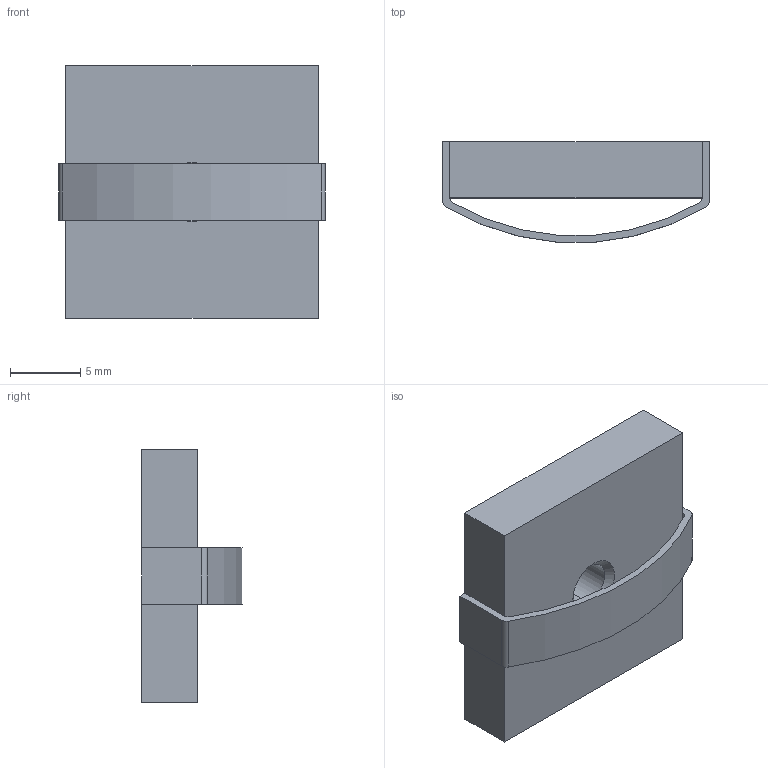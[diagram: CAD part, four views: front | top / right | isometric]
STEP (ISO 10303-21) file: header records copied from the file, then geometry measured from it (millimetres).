
FILE_DESCRIPTION (( 'STEP AP214' ), '1' );
FILE_NAME ('SNSD.30.51.33. Ñóõàðü ïàçîâûé ñ ïðóæèííîé ïëàñòèíîé M4, ïàç 10(B81).STEP', '2014-12-01T08:40:23', ( 'XTreme.ws' ), ( 'XTreme.ws' ), 'SwSTEP 2.0', 'SolidWorks 2014', '' );
FILE_SCHEMA (( 'AUTOMOTIVE_DESIGN' ));
Length unit declared in the file: millimetre
Products named in the file (3): SNSD.30.51.19. Ñóõàðü ïàçîâûé ñ ïðóæèííîé ïëàñòèíîé M6, ïàç 8(B79)B80B78B81_00; SNSD.30.51.33. Ñóõàðü ïàçîâûé ñ ïðóæèííîé ïëàñòèíîé M4, ïàç 10(B81); SNSD.30.51.19. ﾏ跖浯(B79)B80B78B81_00
Assembly tree (2 placements, depth 2):
  SNSD.30.51.33. Ñóõàðü ïàçîâûé ñ ïðóæèííîé ïëàñòèíîé M4, ïàç 10(B81)
    SNSD.30.51.19. Ñóõàðü ïàçîâûé ñ ïðóæèííîé ïëàñòèíîé M6, ïàç 8(B79)B80B78B81_00
    SNSD.30.51.19. ﾏ跖浯(B79)B80B78B81_00
Bounding box: 19 x 7.15 x 18 mm (x, y, z)
Volume: 1317.4 mm3; surface area: 1211.6 mm2
Topology: 2 solids, 2 shells, 26 faces, 62 edges, 40 vertices
Faces by surface type: plane 14, cylinder 8, cone 4
Entity records: 890 total; most frequent: DIRECTION 144, CARTESIAN_POINT 133, ORIENTED_EDGE 124, EDGE_CURVE 62, AXIS2_PLACEMENT_3D 51, VECTOR 42, LINE 42, VERTEX_POINT 40
